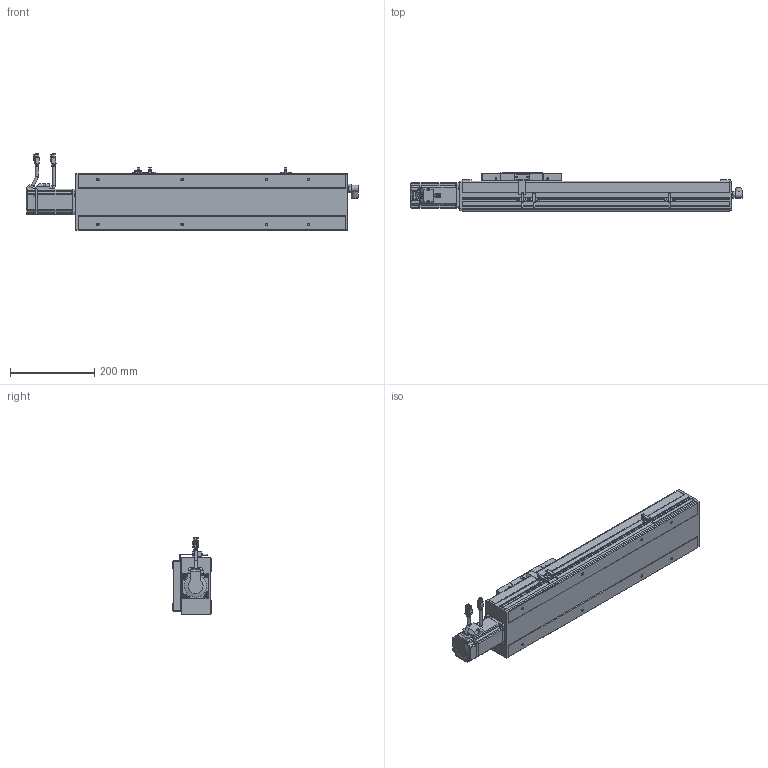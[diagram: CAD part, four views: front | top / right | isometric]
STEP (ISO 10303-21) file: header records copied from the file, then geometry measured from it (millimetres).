
FILE_DESCRIPTION(/* description */ ('STEP AP214'),/* implementation_level */ '2;1');
FILE_NAME(/* name */ 'PSC140-L05-S350-BC-P40-C1-N(0)',/* time_stamp */ '2022-06-13T03:13:26+02:00',/* author */ ('License CC BY-ND 4.0'),/* organization */ ('CADENAS'),/* preprocessor_version */ 'ST-DEVELOPER v18.102',/* originating_system */ 'PARTsolutions',/* authorisation */ ' ');
FILE_SCHEMA (('AUTOMOTIVE_DESIGN {1 0 10303 214 3 1 1}'));
Length unit declared in the file: millimetre
Products named in the file (10): PSC140-L05-S350-BC-P40-C1-N(0); P40-s2; P40-c2; P40-s1; P40-c1; P40-p1; PSC140-sensor; PSC140-BC-SLIDER; PSC140-S350-BC-P40-C1_BODY1; PSC140-L05-S350-BC-P40-C1-N(0)_dummy
Assembly tree (11 placements, depth 2):
  PSC140-L05-S350-BC-P40-C1-N(0)
    P40-s2
    P40-c2
    P40-s1
    P40-c1
    P40-p1
    PSC140-sensor  x3
    PSC140-BC-SLIDER
    PSC140-S350-BC-P40-C1_BODY1
    PSC140-L05-S350-BC-P40-C1-N(0)_dummy
Bounding box: 789 x 91 x 182.48 mm (x, y, z)
Volume: 6883791.8 mm3; surface area: 447483.2 mm2
Topology: 10 solids, 10 shells, 1238 faces, 3200 edges, 2115 vertices
Faces by surface type: plane 862, cylinder 313, cone 44, torus 19
Full cylindrical faces by diameter (mm): 1 x8, 2.6 x10, 2.8 x3, 3.3 x8, 4.5 x12, 4.6 x3, 4.917 x12, 5 x4, 5.5 x8, 6 x10, 6.08 x4, 7 x10, 9 x2, 10 x1, 11 x1, 13.74 x1, 14 x1, 16.4 x2, 16.5 x1, 19.98 x1, 31.98 x1, 35.5 x1, 50 x2
Entity records: 34238 total; most frequent: CARTESIAN_POINT 5983, DIRECTION 5755, ORIENTED_EDGE 5558, EDGE_CURVE 2779, LINE 2109, VECTOR 2109, VERTEX_POINT 1936, AXIS2_PLACEMENT_3D 1823
